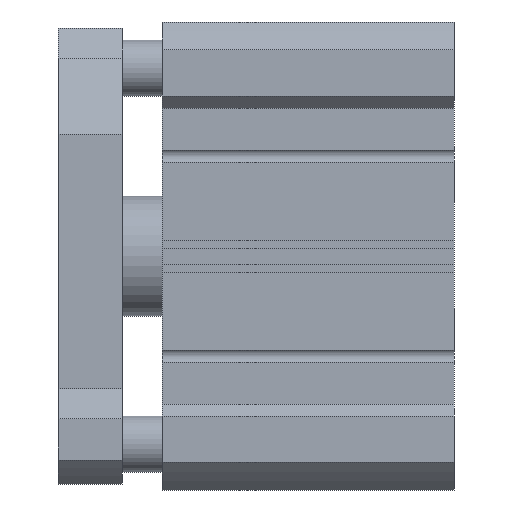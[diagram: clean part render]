
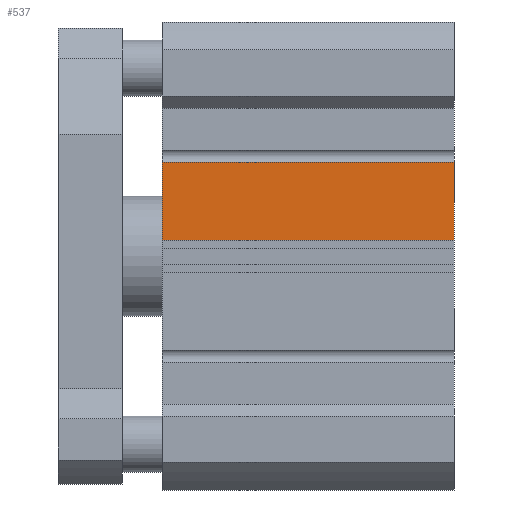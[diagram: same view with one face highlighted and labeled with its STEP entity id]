
A CAD part, front view. The second image highlights one B-rep face of the part: STEP entity #537.
In plain terms, the highlighted planar face has unit normal (0, -1, 0).
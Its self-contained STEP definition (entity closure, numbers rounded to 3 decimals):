
#203 = ORIENTED_EDGE ( 'NONE', *, *, #3496, .F. ) ;
#533 = ORIENTED_EDGE ( 'NONE', *, *, #658, .F. ) ;
#537 = ADVANCED_FACE ( 'NONE', ( #5320 ), #1424, .F. ) ;
#650 = VECTOR ( 'NONE', #5885, 1000. ) ;
#658 = EDGE_CURVE ( 'NONE', #5085, #3505, #2570, .T. ) ;
#699 = VECTOR ( 'NONE', #5548, 1000. ) ;
#961 = DIRECTION ( 'NONE',  ( 1., 0., 0. ) ) ;
#1038 = EDGE_LOOP ( 'NONE', ( #3308, #533, #203, #2342 ) ) ;
#1424 = PLANE ( 'NONE',  #4292 ) ;
#1475 = DIRECTION ( 'NONE',  ( 0., 0., -1. ) ) ;
#1544 = VECTOR ( 'NONE', #4886, 1000. ) ;
#1695 = LINE ( 'NONE', #4999, #650 ) ;
#1703 = EDGE_CURVE ( 'NONE', #4059, #3505, #5703, .T. ) ;
#2342 = ORIENTED_EDGE ( 'NONE', *, *, #3657, .T. ) ;
#2570 = LINE ( 'NONE', #5403, #1544 ) ;
#3057 = CARTESIAN_POINT ( 'NONE',  ( 0., -55.5, 4. ) ) ;
#3061 = VECTOR ( 'NONE', #1475, 1000. ) ;
#3308 = ORIENTED_EDGE ( 'NONE', *, *, #1703, .T. ) ;
#3309 = CARTESIAN_POINT ( 'NONE',  ( 73., -55.5, 23.5 ) ) ;
#3496 = EDGE_CURVE ( 'NONE', #5302, #5085, #1695, .T. ) ;
#3505 = VERTEX_POINT ( 'NONE', #3057 ) ;
#3657 = EDGE_CURVE ( 'NONE', #5302, #4059, #4746, .T. ) ;
#4059 = VERTEX_POINT ( 'NONE', #5053 ) ;
#4251 = CARTESIAN_POINT ( 'NONE',  ( 0., -55.5, 23.5 ) ) ;
#4292 = AXIS2_PLACEMENT_3D ( 'NONE', #3309, #5195, #961 ) ;
#4746 = LINE ( 'NONE', #5089, #699 ) ;
#4886 = DIRECTION ( 'NONE',  ( -1., 0., 0. ) ) ;
#4890 = CARTESIAN_POINT ( 'NONE',  ( 73., -55.5, 23.5 ) ) ;
#4999 = CARTESIAN_POINT ( 'NONE',  ( 73., -55.5, 23.5 ) ) ;
#5053 = CARTESIAN_POINT ( 'NONE',  ( 0., -55.5, 23.5 ) ) ;
#5085 = VERTEX_POINT ( 'NONE', #5590 ) ;
#5089 = CARTESIAN_POINT ( 'NONE',  ( 73., -55.5, 23.5 ) ) ;
#5195 = DIRECTION ( 'NONE',  ( 0., 1., 0. ) ) ;
#5302 = VERTEX_POINT ( 'NONE', #4890 ) ;
#5320 = FACE_OUTER_BOUND ( 'NONE', #1038, .T. ) ;
#5403 = CARTESIAN_POINT ( 'NONE',  ( 73., -55.5, 4. ) ) ;
#5548 = DIRECTION ( 'NONE',  ( -1., 0., 0. ) ) ;
#5590 = CARTESIAN_POINT ( 'NONE',  ( 73., -55.5, 4. ) ) ;
#5703 = LINE ( 'NONE', #4251, #3061 ) ;
#5885 = DIRECTION ( 'NONE',  ( 0., 0., -1. ) ) ;
